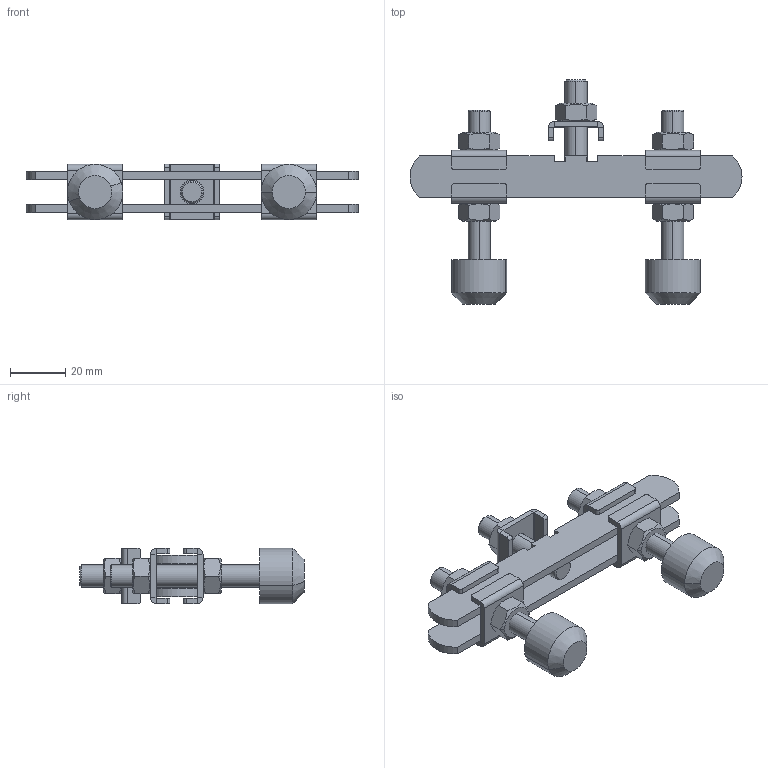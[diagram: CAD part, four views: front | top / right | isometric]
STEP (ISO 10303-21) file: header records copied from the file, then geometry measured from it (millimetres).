
FILE_DESCRIPTION (( 'STEP AP203' ), '1' );
FILE_NAME ('PBD-M8.STEP', '2011-09-15T17:11:05', ( 'Usuario' ), ( '' ), 'SwSTEP 2.0', 'SolidWorks 2011', '' );
FILE_SCHEMA (( 'CONFIG_CONTROL_DESIGN' ));
Length unit declared in the file: millimetre
Products named in the file (7): 20.20010; 20.10001; 10.20001; 20.20014; PBD-M8; 14.10001; 11.50002
Assembly tree (17 placements, depth 2):
  PBD-M8
    20.10001  x2
    20.20014  x2
    11.50002  x5
    14.10001  x5
    20.20010  x2
    10.20001
Bounding box: 120 x 81 x 20 mm (x, y, z)
Volume: 35679.9 mm3; surface area: 25799.9 mm2
Topology: 17 solids, 17 shells, 304 faces, 690 edges, 418 vertices
Faces by surface type: plane 164, cylinder 80, cone 60
Entity records: 3566 total; most frequent: CARTESIAN_POINT 539, DIRECTION 461, ORIENTED_EDGE 382, EDGE_CURVE 191, AXIS2_PLACEMENT_3D 175, VERTEX_POINT 117, LINE 111, VECTOR 111
